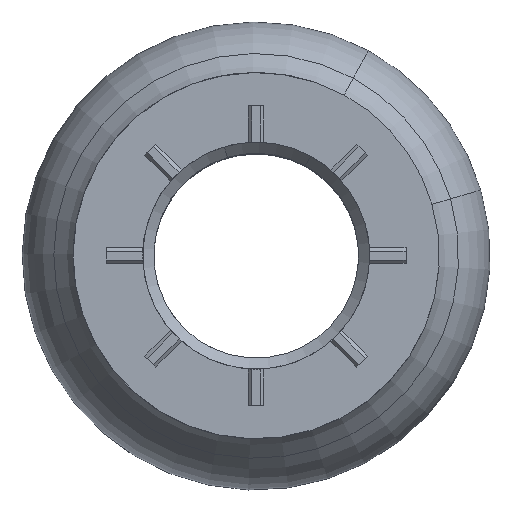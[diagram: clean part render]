
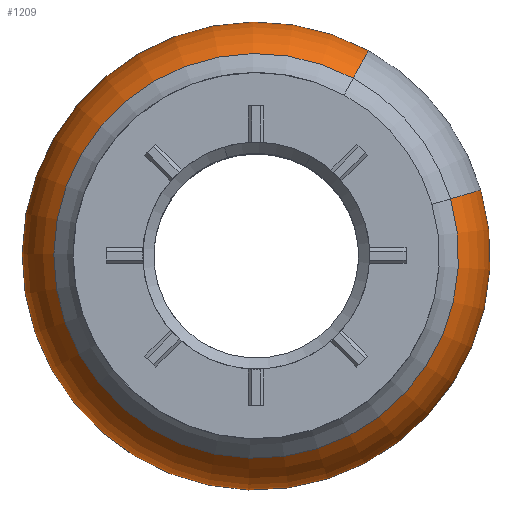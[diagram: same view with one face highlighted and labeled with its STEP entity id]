
A CAD part, top view. The second image highlights one B-rep face of the part: STEP entity #1209.
In plain terms, the highlighted toroidal (fillet/blend) face has major radius 11.418 mm and minor radius 9.672 mm.
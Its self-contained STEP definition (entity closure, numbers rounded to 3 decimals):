
#1209=ADVANCED_FACE('',(#2229),#2231,.T.);
#2229=FACE_BOUND('',#2230,.T.);
#2230=EDGE_LOOP('',(#2874,#2875,#2876,#2877));
#2231=TOROIDAL_SURFACE('',#2232,11.418,9.672);
#2232=AXIS2_PLACEMENT_3D('',#2233,#2234,#2235);
#2233=CARTESIAN_POINT('',(0.,0.,1.007));
#2234=DIRECTION('',(0.,0.,-1.));
#2235=DIRECTION('',(0.479,0.878,0.));
#2874=ORIENTED_EDGE('',*,*,#3189,.T.);
#2875=ORIENTED_EDGE('',*,*,#3360,.F.);
#2876=ORIENTED_EDGE('',*,*,#3190,.F.);
#2877=ORIENTED_EDGE('',*,*,#3362,.T.);
#3189=EDGE_CURVE('',#3643,#3651,#3654,.T.);
#3190=EDGE_CURVE('',#3641,#3652,#3655,.T.);
#3360=EDGE_CURVE('',#3652,#3651,#3924,.T.);
#3362=EDGE_CURVE('',#3641,#3643,#3926,.T.);
#3641=VERTEX_POINT('',#4589);
#3643=VERTEX_POINT('',#4594);
#3651=VERTEX_POINT('',#4615);
#3652=VERTEX_POINT('',#4616);
#3654=CIRCLE('',#4621,9.672);
#3655=CIRCLE('',#4625,9.672);
#3924=CIRCLE('',#5382,21.09);
#3926=CIRCLE('',#5390,18.236);
#4589=CARTESIAN_POINT('',(17.499,5.134,7.867));
#4594=CARTESIAN_POINT('',(8.743,16.004,7.867));
#4615=CARTESIAN_POINT('',(10.111,18.508,1.007));
#4616=CARTESIAN_POINT('',(20.237,5.938,1.007));
#4621=AXIS2_PLACEMENT_3D('',#4622,#4623,#4624);
#4622=CARTESIAN_POINT('',(5.474,10.02,1.007));
#4623=DIRECTION('',(-0.878,0.479,0.));
#4624=DIRECTION('',(0.338,0.619,0.709));
#4625=AXIS2_PLACEMENT_3D('',#4626,#4627,#4628);
#4626=CARTESIAN_POINT('',(10.956,3.215,1.007));
#4627=DIRECTION('',(-0.282,0.96,0.));
#4628=DIRECTION('',(0.676,0.198,0.709));
#5382=AXIS2_PLACEMENT_3D('',#5383,#5384,#5385);
#5383=CARTESIAN_POINT('',(0.,0.,1.007));
#5384=DIRECTION('',(0.,0.,-1.));
#5385=DIRECTION('',(0.96,0.282,0.));
#5390=AXIS2_PLACEMENT_3D('',#5391,#5392,#5393);
#5391=CARTESIAN_POINT('',(0.,0.,7.867));
#5392=DIRECTION('',(0.,0.,-1.));
#5393=DIRECTION('',(0.96,0.282,0.));
